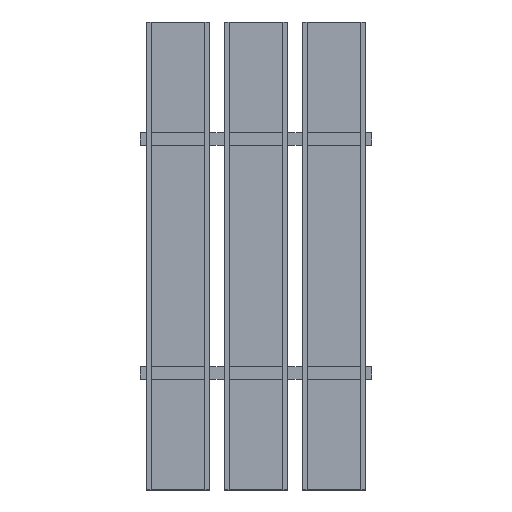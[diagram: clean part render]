
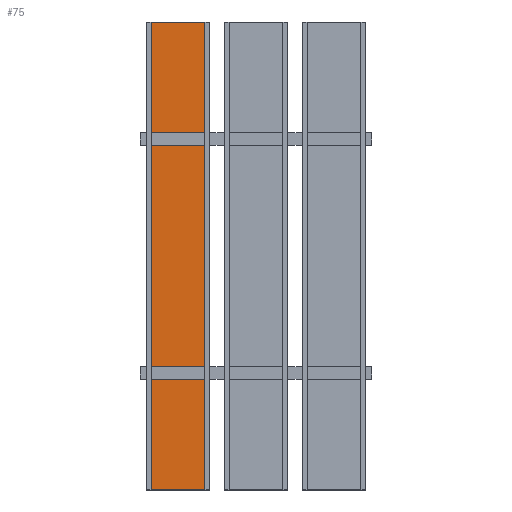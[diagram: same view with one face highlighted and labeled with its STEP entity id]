
A CAD part, top view. The second image highlights one B-rep face of the part: STEP entity #75.
In plain terms, the highlighted planar face has unit normal (0, 0, 1).
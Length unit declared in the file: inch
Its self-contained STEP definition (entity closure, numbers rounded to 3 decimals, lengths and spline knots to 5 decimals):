
#75=ADVANCED_FACE('',(#165),#1489,.T.);
#165=FACE_OUTER_BOUND('',#263,.T.);
#263=EDGE_LOOP('',(#516,#517,#518,#519));
#516=ORIENTED_EDGE('',*,*,#914,.F.);
#517=ORIENTED_EDGE('',*,*,#934,.T.);
#518=ORIENTED_EDGE('',*,*,#920,.F.);
#519=ORIENTED_EDGE('',*,*,#931,.F.);
#914=EDGE_CURVE('',#1366,#1367,#1154,.T.);
#920=EDGE_CURVE('',#1372,#1373,#1160,.T.);
#931=EDGE_CURVE('',#1367,#1372,#1171,.T.);
#934=EDGE_CURVE('',#1366,#1373,#1174,.T.);
#1154=B_SPLINE_CURVE_WITH_KNOTS('',1,(#2273,#2274),.UNSPECIFIED.,.F.,.F.,
(2,2),(0.,48.),.UNSPECIFIED.);
#1160=B_SPLINE_CURVE_WITH_KNOTS('',1,(#2285,#2286),.UNSPECIFIED.,.F.,.F.,
(2,2),(0.,48.),.UNSPECIFIED.);
#1171=B_SPLINE_CURVE_WITH_KNOTS('',1,(#2307,#2308),.UNSPECIFIED.,.F.,.F.,
(2,2),(0.,5.5),.UNSPECIFIED.);
#1174=B_SPLINE_CURVE_WITH_KNOTS('',1,(#2313,#2314),.UNSPECIFIED.,.F.,.F.,
(2,2),(0.,5.5),.UNSPECIFIED.);
#1366=VERTEX_POINT('',#1983);
#1367=VERTEX_POINT('',#1984);
#1372=VERTEX_POINT('',#1989);
#1373=VERTEX_POINT('',#1990);
#1489=PLANE('',#1670);
#1670=AXIS2_PLACEMENT_3D('',#1856,#1763,$);
#1763=DIRECTION('',(0.,0.,1.));
#1856=CARTESIAN_POINT('',(-12.69528,28.80472,-0.5));
#1983=CARTESIAN_POINT('',(-18.75,-24.,-0.5));
#1984=CARTESIAN_POINT('',(-18.75,24.,-0.5));
#1989=CARTESIAN_POINT('',(-13.25,24.,-0.5));
#1990=CARTESIAN_POINT('',(-13.25,-24.,-0.5));
#2273=CARTESIAN_POINT('',(-18.75,-24.,-0.5));
#2274=CARTESIAN_POINT('',(-18.75,24.,-0.5));
#2285=CARTESIAN_POINT('',(-13.25,24.,-0.5));
#2286=CARTESIAN_POINT('',(-13.25,-24.,-0.5));
#2307=CARTESIAN_POINT('',(-18.75,24.,-0.5));
#2308=CARTESIAN_POINT('',(-13.25,24.,-0.5));
#2313=CARTESIAN_POINT('',(-18.75,-24.,-0.5));
#2314=CARTESIAN_POINT('',(-13.25,-24.,-0.5));
